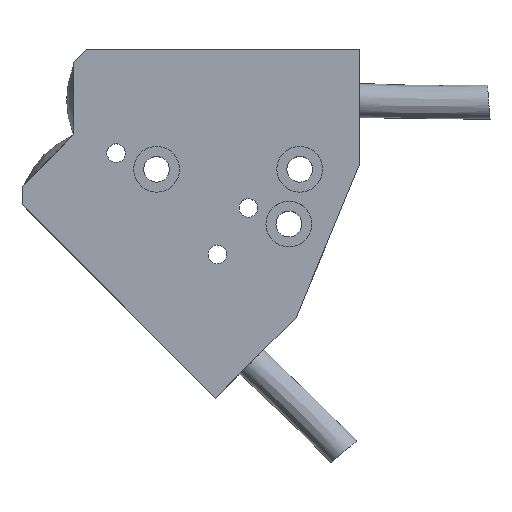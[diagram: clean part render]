
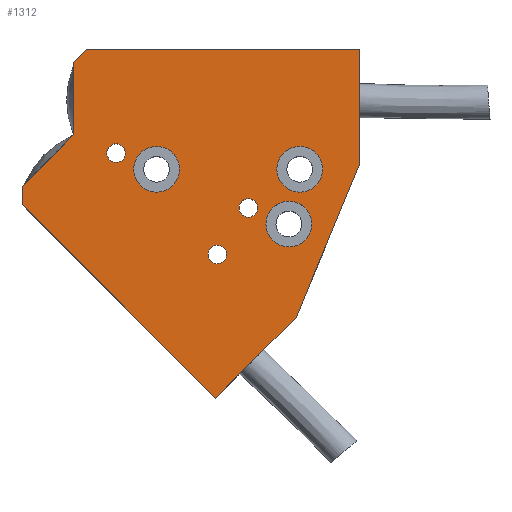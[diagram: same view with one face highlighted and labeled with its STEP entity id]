
A CAD part, top view. The second image highlights one B-rep face of the part: STEP entity #1312.
In plain terms, the highlighted planar face has unit normal (0, 0, 1).
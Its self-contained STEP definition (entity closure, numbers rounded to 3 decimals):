
#89=LINE('',#2606,#181);
#93=LINE('',#2615,#185);
#97=LINE('',#2622,#189);
#98=LINE('',#2624,#190);
#99=LINE('',#2626,#191);
#100=LINE('',#2628,#192);
#101=LINE('',#2630,#193);
#102=LINE('',#2632,#194);
#103=LINE('',#2633,#195);
#181=VECTOR('',#1739,10.);
#185=VECTOR('',#1745,10.);
#189=VECTOR('',#1751,10.);
#190=VECTOR('',#1754,10.);
#191=VECTOR('',#1755,10.);
#192=VECTOR('',#1756,10.);
#193=VECTOR('',#1757,10.);
#194=VECTOR('',#1758,10.);
#195=VECTOR('',#1759,10.);
#290=FACE_BOUND('',#435,.T.);
#291=FACE_BOUND('',#436,.T.);
#292=FACE_BOUND('',#437,.T.);
#293=FACE_BOUND('',#438,.T.);
#294=FACE_BOUND('',#439,.T.);
#295=FACE_BOUND('',#440,.T.);
#362=FACE_OUTER_BOUND('',#434,.T.);
#434=EDGE_LOOP('',(#1071,#1072,#1073,#1074,#1075,#1076,#1077,#1078,#1079));
#435=EDGE_LOOP('',(#1080,#1081));
#436=EDGE_LOOP('',(#1082,#1083));
#437=EDGE_LOOP('',(#1084,#1085));
#438=EDGE_LOOP('',(#1086,#1087));
#439=EDGE_LOOP('',(#1088,#1089));
#440=EDGE_LOOP('',(#1090,#1091));
#530=CIRCLE('',#1448,1.621);
#531=CIRCLE('',#1449,1.621);
#532=CIRCLE('',#1450,1.621);
#533=CIRCLE('',#1451,1.621);
#534=CIRCLE('',#1452,4.);
#535=CIRCLE('',#1453,4.);
#536=CIRCLE('',#1454,4.);
#537=CIRCLE('',#1455,4.);
#538=CIRCLE('',#1456,4.);
#539=CIRCLE('',#1457,4.);
#540=CIRCLE('',#1458,1.621);
#541=CIRCLE('',#1459,1.621);
#639=VERTEX_POINT('',#2603);
#640=VERTEX_POINT('',#2605);
#643=VERTEX_POINT('',#2612);
#644=VERTEX_POINT('',#2614);
#646=VERTEX_POINT('',#2620);
#647=VERTEX_POINT('',#2625);
#648=VERTEX_POINT('',#2627);
#649=VERTEX_POINT('',#2629);
#650=VERTEX_POINT('',#2631);
#651=VERTEX_POINT('',#2634);
#652=VERTEX_POINT('',#2635);
#653=VERTEX_POINT('',#2638);
#654=VERTEX_POINT('',#2639);
#655=VERTEX_POINT('',#2642);
#656=VERTEX_POINT('',#2643);
#657=VERTEX_POINT('',#2646);
#658=VERTEX_POINT('',#2647);
#659=VERTEX_POINT('',#2650);
#660=VERTEX_POINT('',#2651);
#661=VERTEX_POINT('',#2654);
#662=VERTEX_POINT('',#2655);
#795=EDGE_CURVE('',#640,#639,#89,.T.);
#799=EDGE_CURVE('',#644,#643,#93,.T.);
#803=EDGE_CURVE('',#639,#646,#97,.T.);
#804=EDGE_CURVE('',#646,#644,#98,.T.);
#805=EDGE_CURVE('',#643,#647,#99,.T.);
#806=EDGE_CURVE('',#647,#648,#100,.T.);
#807=EDGE_CURVE('',#648,#649,#101,.T.);
#808=EDGE_CURVE('',#649,#650,#102,.T.);
#809=EDGE_CURVE('',#650,#640,#103,.T.);
#810=EDGE_CURVE('',#651,#652,#530,.T.);
#811=EDGE_CURVE('',#652,#651,#531,.T.);
#812=EDGE_CURVE('',#653,#654,#532,.T.);
#813=EDGE_CURVE('',#654,#653,#533,.T.);
#814=EDGE_CURVE('',#655,#656,#534,.T.);
#815=EDGE_CURVE('',#656,#655,#535,.T.);
#816=EDGE_CURVE('',#657,#658,#536,.T.);
#817=EDGE_CURVE('',#658,#657,#537,.T.);
#818=EDGE_CURVE('',#659,#660,#538,.T.);
#819=EDGE_CURVE('',#660,#659,#539,.T.);
#820=EDGE_CURVE('',#661,#662,#540,.T.);
#821=EDGE_CURVE('',#662,#661,#541,.T.);
#1071=ORIENTED_EDGE('',*,*,#795,.T.);
#1072=ORIENTED_EDGE('',*,*,#803,.T.);
#1073=ORIENTED_EDGE('',*,*,#804,.T.);
#1074=ORIENTED_EDGE('',*,*,#799,.T.);
#1075=ORIENTED_EDGE('',*,*,#805,.T.);
#1076=ORIENTED_EDGE('',*,*,#806,.T.);
#1077=ORIENTED_EDGE('',*,*,#807,.T.);
#1078=ORIENTED_EDGE('',*,*,#808,.T.);
#1079=ORIENTED_EDGE('',*,*,#809,.T.);
#1080=ORIENTED_EDGE('',*,*,#810,.T.);
#1081=ORIENTED_EDGE('',*,*,#811,.T.);
#1082=ORIENTED_EDGE('',*,*,#812,.T.);
#1083=ORIENTED_EDGE('',*,*,#813,.T.);
#1084=ORIENTED_EDGE('',*,*,#814,.T.);
#1085=ORIENTED_EDGE('',*,*,#815,.T.);
#1086=ORIENTED_EDGE('',*,*,#816,.T.);
#1087=ORIENTED_EDGE('',*,*,#817,.T.);
#1088=ORIENTED_EDGE('',*,*,#818,.T.);
#1089=ORIENTED_EDGE('',*,*,#819,.T.);
#1090=ORIENTED_EDGE('',*,*,#820,.T.);
#1091=ORIENTED_EDGE('',*,*,#821,.T.);
#1256=PLANE('',#1447);
#1312=ADVANCED_FACE('',(#362,#290,#291,#292,#293,#294,#295),#1256,.T.);
#1447=AXIS2_PLACEMENT_3D('',#2623,#1752,#1753);
#1448=AXIS2_PLACEMENT_3D('',#2636,#1760,#1761);
#1449=AXIS2_PLACEMENT_3D('',#2637,#1762,#1763);
#1450=AXIS2_PLACEMENT_3D('',#2640,#1764,#1765);
#1451=AXIS2_PLACEMENT_3D('',#2641,#1766,#1767);
#1452=AXIS2_PLACEMENT_3D('',#2644,#1768,#1769);
#1453=AXIS2_PLACEMENT_3D('',#2645,#1770,#1771);
#1454=AXIS2_PLACEMENT_3D('',#2648,#1772,#1773);
#1455=AXIS2_PLACEMENT_3D('',#2649,#1774,#1775);
#1456=AXIS2_PLACEMENT_3D('',#2652,#1776,#1777);
#1457=AXIS2_PLACEMENT_3D('',#2653,#1778,#1779);
#1458=AXIS2_PLACEMENT_3D('',#2656,#1780,#1781);
#1459=AXIS2_PLACEMENT_3D('',#2657,#1782,#1783);
#1739=DIRECTION('',(-0.707,-0.707,0.));
#1745=DIRECTION('',(0.,-1.,0.));
#1751=DIRECTION('',(0.,-1.,0.));
#1752=DIRECTION('center_axis',(0.,0.,
1.));
#1753=DIRECTION('ref_axis',(0.,-1.,0.));
#1754=DIRECTION('',(-0.707,-0.707,0.));
#1755=DIRECTION('',(0.707,-0.707,0.));
#1756=DIRECTION('',(0.707,0.707,0.));
#1757=DIRECTION('',(0.383,0.924,0.));
#1758=DIRECTION('',(0.,1.,0.));
#1759=DIRECTION('',(-1.,0.,0.));
#1760=DIRECTION('center_axis',(0.,0.,
-1.));
#1761=DIRECTION('ref_axis',(0.,-1.,0.));
#1762=DIRECTION('center_axis',(0.,0.,
-1.));
#1763=DIRECTION('ref_axis',(0.,-1.,0.));
#1764=DIRECTION('center_axis',(0.,0.,
-1.));
#1765=DIRECTION('ref_axis',(0.,-1.,0.));
#1766=DIRECTION('center_axis',(0.,0.,
-1.));
#1767=DIRECTION('ref_axis',(0.,-1.,0.));
#1768=DIRECTION('center_axis',(0.,0.,
-1.));
#1769=DIRECTION('ref_axis',(0.,-1.,0.));
#1770=DIRECTION('center_axis',(0.,0.,
-1.));
#1771=DIRECTION('ref_axis',(0.,-1.,0.));
#1772=DIRECTION('center_axis',(0.,0.,
-1.));
#1773=DIRECTION('ref_axis',(0.,-1.,0.));
#1774=DIRECTION('center_axis',(0.,0.,
-1.));
#1775=DIRECTION('ref_axis',(0.,-1.,0.));
#1776=DIRECTION('center_axis',(0.,0.,
-1.));
#1777=DIRECTION('ref_axis',(0.,-1.,0.));
#1778=DIRECTION('center_axis',(0.,0.,
-1.));
#1779=DIRECTION('ref_axis',(0.,-1.,0.));
#1780=DIRECTION('center_axis',(0.,0.,
-1.));
#1781=DIRECTION('ref_axis',(0.,-1.,0.));
#1782=DIRECTION('center_axis',(0.,0.,
-1.));
#1783=DIRECTION('ref_axis',(0.,-1.,0.));
#2603=CARTESIAN_POINT('',(0.,6.228,7.));
#2605=CARTESIAN_POINT('',(2.272,8.5,7.));
#2606=CARTESIAN_POINT('',(1.331,7.559,7.));
#2612=CARTESIAN_POINT('',(-9.,-18.713,7.));
#2614=CARTESIAN_POINT('',(-9.,-15.5,7.));
#2615=CARTESIAN_POINT('',(-9.,-15.775,7.));
#2620=CARTESIAN_POINT('',(0.,-6.5,7.));
#2622=CARTESIAN_POINT('',(0.,-6.5,7.));
#2623=CARTESIAN_POINT('Origin',(23.057,-16.051,7.));
#2624=CARTESIAN_POINT('',(-10.607,-17.107,7.));
#2625=CARTESIAN_POINT('',(24.749,-52.462,7.));
#2626=CARTESIAN_POINT('',(24.749,-52.462,7.));
#2627=CARTESIAN_POINT('',(38.891,-38.32,7.));
#2628=CARTESIAN_POINT('',(50.,-27.211,7.));
#2629=CARTESIAN_POINT('',(50.,-11.5,7.));
#2630=CARTESIAN_POINT('',(41.668,-31.615,7.));
#2631=CARTESIAN_POINT('',(50.,8.5,7.));
#2632=CARTESIAN_POINT('',(50.,8.5,7.));
#2633=CARTESIAN_POINT('',(0.,8.5,7.));
#2634=CARTESIAN_POINT('',(25.102,-28.981,7.));
#2635=CARTESIAN_POINT('',(25.102,-25.739,7.));
#2636=CARTESIAN_POINT('Origin',(25.102,-27.36,7.));
#2637=CARTESIAN_POINT('Origin',(25.102,-27.36,7.));
#2638=CARTESIAN_POINT('',(7.425,-11.303,7.));
#2639=CARTESIAN_POINT('',(7.425,-8.061,7.));
#2640=CARTESIAN_POINT('Origin',(7.425,-9.682,7.));
#2641=CARTESIAN_POINT('Origin',(7.425,-9.682,7.));
#2642=CARTESIAN_POINT('',(18.5,-12.5,7.));
#2643=CARTESIAN_POINT('',(14.5,-8.5,7.));
#2644=CARTESIAN_POINT('Origin',(14.5,-12.5,7.));
#2645=CARTESIAN_POINT('Origin',(14.5,-12.5,7.));
#2646=CARTESIAN_POINT('',(43.5,-12.5,7.));
#2647=CARTESIAN_POINT('',(39.5,-8.5,7.));
#2648=CARTESIAN_POINT('Origin',(39.5,-12.5,7.));
#2649=CARTESIAN_POINT('Origin',(39.5,-12.5,7.));
#2650=CARTESIAN_POINT('',(41.597,-22.067,7.));
#2651=CARTESIAN_POINT('',(37.597,-18.067,7.));
#2652=CARTESIAN_POINT('Origin',(37.597,-22.067,7.));
#2653=CARTESIAN_POINT('Origin',(37.597,-22.067,7.));
#2654=CARTESIAN_POINT('',(30.522,-20.87,7.));
#2655=CARTESIAN_POINT('',(30.522,-17.628,7.));
#2656=CARTESIAN_POINT('Origin',(30.522,-19.249,7.));
#2657=CARTESIAN_POINT('Origin',(30.522,-19.249,7.));
